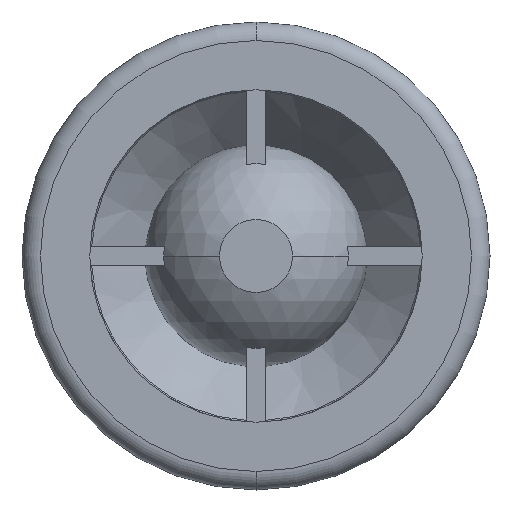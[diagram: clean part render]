
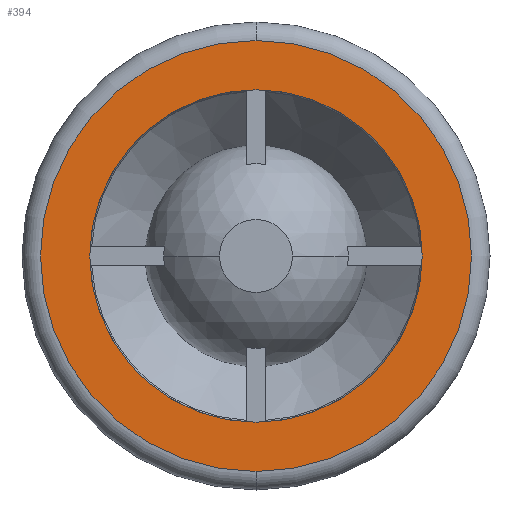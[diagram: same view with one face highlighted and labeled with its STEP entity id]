
A CAD part, front view. The second image highlights one B-rep face of the part: STEP entity #394.
In plain terms, the highlighted planar face has unit normal (0, -1, 0).
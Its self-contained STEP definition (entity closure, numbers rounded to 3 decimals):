
#148 = VERTEX_POINT ( 'NONE', #1117 ) ;
#168 = EDGE_CURVE ( 'NONE', #148, #317, #1147, .T. ) ;
#177 = EDGE_CURVE ( 'NONE', #317, #148, #1090, .T. ) ;
#317 = VERTEX_POINT ( 'NONE', #2784 ) ;
#370 = EDGE_LOOP ( 'NONE', ( #371, #373 ) ) ;
#371 = ORIENTED_EDGE ( 'NONE', *, *, #372, .T. ) ;
#372 = EDGE_CURVE ( 'NONE', #752, #745, #2715, .T. ) ;
#373 = ORIENTED_EDGE ( 'NONE', *, *, #744, .T. ) ;
#374 = EDGE_LOOP ( 'NONE', ( #375, #379 ) ) ;
#375 = ORIENTED_EDGE ( 'NONE', *, *, #168, .F. ) ;
#379 = ORIENTED_EDGE ( 'NONE', *, *, #177, .F. ) ;
#394 = ADVANCED_FACE ( 'NONE', ( #1471, #1470 ), #1467, .F. ) ;
#744 = EDGE_CURVE ( 'NONE', #745, #752, #2129, .T. ) ;
#745 = VERTEX_POINT ( 'NONE', #2130 ) ;
#752 = VERTEX_POINT ( 'NONE', #2122 ) ;
#1086 = DIRECTION ( 'NONE',  ( 0., 0., -1. ) ) ;
#1087 = DIRECTION ( 'NONE',  ( 0., -1., 0. ) ) ;
#1088 = CARTESIAN_POINT ( 'NONE',  ( 0., 0., 0. ) ) ;
#1089 = AXIS2_PLACEMENT_3D ( 'NONE', #1088, #1087, #1086 ) ;
#1090 = CIRCLE ( 'NONE', #1089, 13.5 ) ;
#1117 = CARTESIAN_POINT ( 'NONE',  ( 0., 0., -13.5 ) ) ;
#1143 = DIRECTION ( 'NONE',  ( 0., 0., -1. ) ) ;
#1144 = DIRECTION ( 'NONE',  ( 0., -1., 0. ) ) ;
#1145 = CARTESIAN_POINT ( 'NONE',  ( 0., 0., 0. ) ) ;
#1146 = AXIS2_PLACEMENT_3D ( 'NONE', #1145, #1144, #1143 ) ;
#1147 = CIRCLE ( 'NONE', #1146, 13.5 ) ;
#1464 = DIRECTION ( 'NONE',  ( 0., 0., 1. ) ) ;
#1465 = DIRECTION ( 'NONE',  ( 0., 1., 0. ) ) ;
#1467 = PLANE ( 'NONE',  #1469 ) ;
#1468 = CARTESIAN_POINT ( 'NONE',  ( -13.5, 0., 0. ) ) ;
#1469 = AXIS2_PLACEMENT_3D ( 'NONE', #1468, #1465, #1464 ) ;
#1470 = FACE_BOUND ( 'NONE', #374, .T. ) ;
#1471 = FACE_OUTER_BOUND ( 'NONE', #370, .T. ) ;
#2097 = DIRECTION ( 'NONE',  ( 0., -1., 0. ) ) ;
#2098 = CARTESIAN_POINT ( 'NONE',  ( 0., 0., 0. ) ) ;
#2099 = AXIS2_PLACEMENT_3D ( 'NONE', #2098, #2097, #2133 ) ;
#2122 = CARTESIAN_POINT ( 'NONE',  ( 0., 0., 17.5 ) ) ;
#2129 = CIRCLE ( 'NONE', #2099, 17.5 ) ;
#2130 = CARTESIAN_POINT ( 'NONE',  ( 0., 0., -17.5 ) ) ;
#2133 = DIRECTION ( 'NONE',  ( 0., 0., 1. ) ) ;
#2711 = DIRECTION ( 'NONE',  ( 0., 0., 1. ) ) ;
#2712 = DIRECTION ( 'NONE',  ( 0., -1., 0. ) ) ;
#2713 = CARTESIAN_POINT ( 'NONE',  ( 0., 0., 0. ) ) ;
#2714 = AXIS2_PLACEMENT_3D ( 'NONE', #2713, #2712, #2711 ) ;
#2715 = CIRCLE ( 'NONE', #2714, 17.5 ) ;
#2784 = CARTESIAN_POINT ( 'NONE',  ( 0., 0., 13.5 ) ) ;
